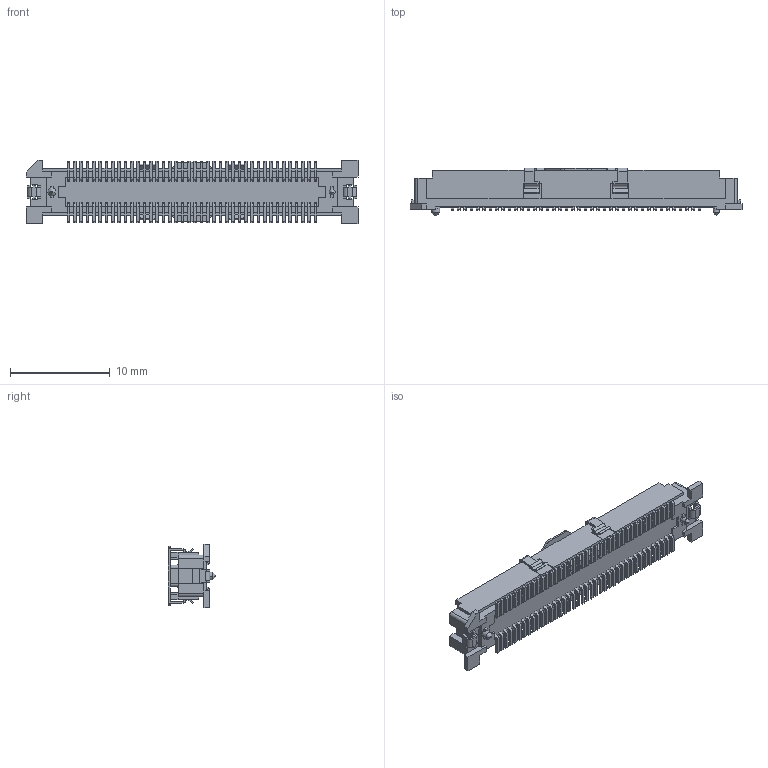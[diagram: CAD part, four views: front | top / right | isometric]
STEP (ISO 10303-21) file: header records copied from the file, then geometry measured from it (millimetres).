
FILE_DESCRIPTION((''),'2;1');
FILE_NAME('528850874','2020-01-22T',('gga'),(''),'PRO/ENGINEER BY PARAMETRIC TECHNOLOGY CORPORATION, 2016010','PRO/ENGINEER BY PARAMETRIC TECHNOLOGY CORPORATION, 2016010','');
FILE_SCHEMA(('CONFIG_CONTROL_DESIGN'));
Length unit declared in the file: millimetre
Products named in the file (1): 528850874
Bounding box: 33.27 x 4.8 x 6.4 mm (x, y, z)
Volume: 410.2 mm3; surface area: 1267.2 mm2
Topology: 1 solids, 1 shells, 1636 faces, 4769 edges, 3285 vertices
Faces by surface type: plane 1324, cylinder 308, cone 4
Entity records: 53128 total; most frequent: CARTESIAN_POINT 9353, ORIENTED_EDGE 8866, DIRECTION 8671, EDGE_CURVE 4433, VECTOR 4137, LINE 4137, VERTEX_POINT 2949, AXIS2_PLACEMENT_3D 2267
